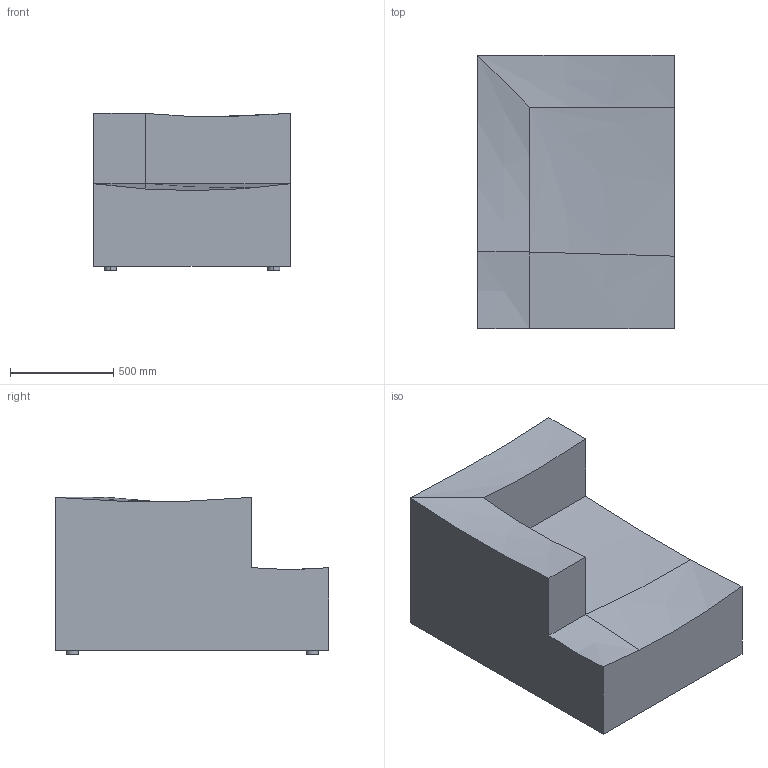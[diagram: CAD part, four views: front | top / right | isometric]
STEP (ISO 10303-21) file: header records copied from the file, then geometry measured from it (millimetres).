
FILE_DESCRIPTION(/* description */ (''),/* implementation_level */ '2;1');
FILE_NAME(/* name */ 'Chaise Longue - Small - Left - S600_3D',/* time_stamp */ '2022-06-03T16:30:10+02:00',/* author */ (''),/* organization */ (''),/* preprocessor_version */ 'ST-DEVELOPER v16.5',/* originating_system */ 'Rhino 7.18',/* authorisation */ '');
FILE_SCHEMA (('CONFIG_CONTROL_DESIGN'));
Length unit declared in the file: millimetre
Products named in the file (1): Document
Bounding box: 950 x 1320 x 760 mm (x, y, z)
Surface area: 11157168.6 mm2
Topology: 10 solids, 10 shells, 58 faces, 106 edges, 68 vertices
Faces by surface type: plane 32, cylinder 16, bspline 10
Entity records: 1412 total; most frequent: CARTESIAN_POINT 530, ORIENTED_EDGE 212, EDGE_CURVE 106, VERTEX_POINT 68, B_SPLINE_CURVE_WITH_KNOTS 58, ADVANCED_FACE 58, FACE_OUTER_BOUND 58, EDGE_LOOP 58
